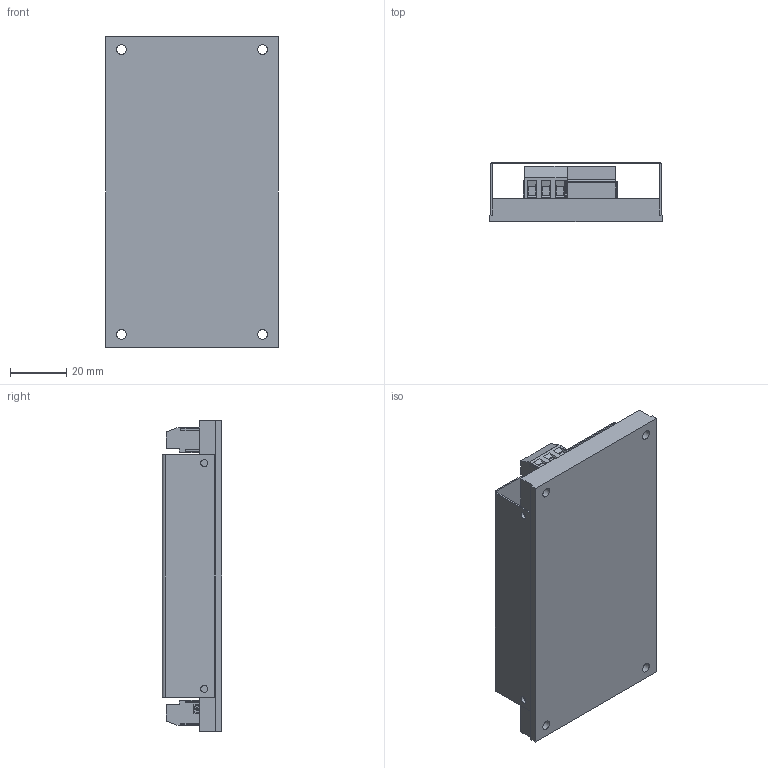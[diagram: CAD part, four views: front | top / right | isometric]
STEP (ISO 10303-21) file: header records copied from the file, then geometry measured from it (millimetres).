
FILE_DESCRIPTION(/* description */ (''),/* implementation_level */ '2;1');
FILE_NAME(/* name */ '',/* time_stamp */ '',/* author */ (''),/* organization */ (''),/* preprocessor_version */ '',/* originating_system */ '',/* authorisation */ '');
FILE_SCHEMA (('AUTOMOTIVE_DESIGN { 1 0 10303 214 3 1 1 }'));
Length unit declared in the file: inch
Products named in the file (1): JETA150-LP_D_full
Bounding box: 61 x 21 x 110 mm (x, y, z)
Volume: 57795 mm3; surface area: 33263.9 mm2
Topology: 1 solids, 4 shells, 424 faces, 1091 edges, 706 vertices
Faces by surface type: plane 315, cylinder 101, sphere 6, cone 2
Full cylindrical faces by diameter (mm): 0.457 x3, 2.5 x4, 3.4 x4, 3.8 x9, 4 x9
Entity records: 12788 total; most frequent: CARTESIAN_POINT 2150, DIRECTION 2098, ORIENTED_EDGE 2058, EDGE_CURVE 1029, LINE 798, VECTOR 798, VERTEX_POINT 678, AXIS2_PLACEMENT_3D 650
